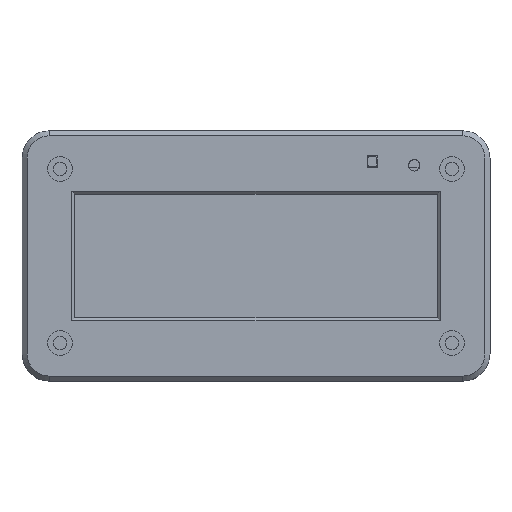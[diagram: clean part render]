
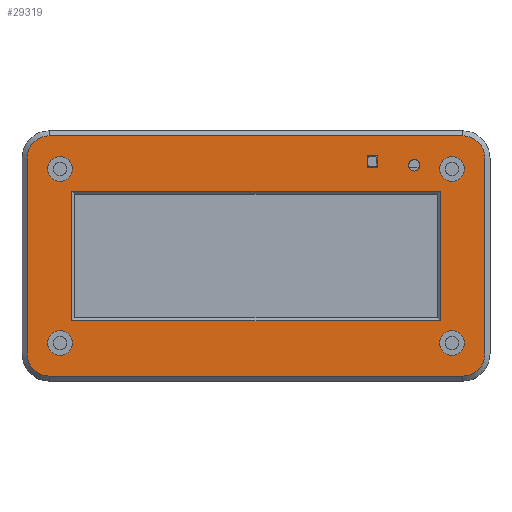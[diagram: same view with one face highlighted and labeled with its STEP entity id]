
A CAD part, top view. The second image highlights one B-rep face of the part: STEP entity #29319.
In plain terms, the highlighted planar face has unit normal (0, 0, 1).
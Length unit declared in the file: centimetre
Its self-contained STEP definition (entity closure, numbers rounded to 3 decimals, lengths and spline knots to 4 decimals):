
#203=FACE_BOUND('',#2084,.T.);
#204=FACE_BOUND('',#2085,.T.);
#205=FACE_BOUND('',#2086,.T.);
#206=FACE_BOUND('',#2087,.T.);
#207=FACE_BOUND('',#2088,.T.);
#208=FACE_BOUND('',#2089,.T.);
#209=FACE_BOUND('',#2090,.T.);
#355=CIRCLE('',#30978,0.61);
#357=CIRCLE('',#30982,0.61);
#359=CIRCLE('',#30986,0.61);
#361=CIRCLE('',#30990,0.61);
#363=CIRCLE('',#30998,0.16);
#364=CIRCLE('',#30999,0.34);
#365=CIRCLE('',#31000,0.34);
#366=CIRCLE('',#31001,0.34);
#367=CIRCLE('',#31002,0.34);
#560=FACE_OUTER_BOUND('',#2083,.T.);
#2083=EDGE_LOOP('',(#19406,#19407,#19408,#19409,#19410,#19411,#19412,#19413));
#2084=EDGE_LOOP('',(#19414));
#2085=EDGE_LOOP('',(#19415,#19416,#19417,#19418));
#2086=EDGE_LOOP('',(#19419));
#2087=EDGE_LOOP('',(#19420));
#2088=EDGE_LOOP('',(#19421));
#2089=EDGE_LOOP('',(#19422));
#2090=EDGE_LOOP('',(#19423,#19424,#19425,#19426));
#3842=LINE('',#40622,#7975);
#3846=LINE('',#40634,#7979);
#3850=LINE('',#40646,#7983);
#3853=LINE('',#40655,#7986);
#3860=LINE('',#40671,#7993);
#3861=LINE('',#40673,#7994);
#3862=LINE('',#40675,#7995);
#3863=LINE('',#40676,#7996);
#3864=LINE('',#40687,#7997);
#3865=LINE('',#40689,#7998);
#3866=LINE('',#40691,#7999);
#3867=LINE('',#40692,#8000);
#7975=VECTOR('',#32885,1.);
#7979=VECTOR('',#32897,1.);
#7983=VECTOR('',#32909,1.);
#7986=VECTOR('',#32920,1.);
#7993=VECTOR('',#32939,1.);
#7994=VECTOR('',#32940,1.);
#7995=VECTOR('',#32941,1.);
#7996=VECTOR('',#32942,1.);
#7997=VECTOR('',#32951,1.);
#7998=VECTOR('',#32952,1.);
#7999=VECTOR('',#32953,1.);
#8000=VECTOR('',#32954,1.);
#12120=VERTEX_POINT('',#40611);
#12121=VERTEX_POINT('',#40613);
#12124=VERTEX_POINT('',#40620);
#12126=VERTEX_POINT('',#40626);
#12128=VERTEX_POINT('',#40632);
#12130=VERTEX_POINT('',#40638);
#12132=VERTEX_POINT('',#40644);
#12134=VERTEX_POINT('',#40650);
#12135=VERTEX_POINT('',#40667);
#12136=VERTEX_POINT('',#40669);
#12137=VERTEX_POINT('',#40670);
#12138=VERTEX_POINT('',#40672);
#12139=VERTEX_POINT('',#40674);
#12140=VERTEX_POINT('',#40677);
#12141=VERTEX_POINT('',#40679);
#12142=VERTEX_POINT('',#40681);
#12143=VERTEX_POINT('',#40683);
#12144=VERTEX_POINT('',#40685);
#12145=VERTEX_POINT('',#40686);
#12146=VERTEX_POINT('',#40688);
#12147=VERTEX_POINT('',#40690);
#15010=EDGE_CURVE('',#12120,#12121,#355,.T.);
#15014=EDGE_CURVE('',#12124,#12120,#3842,.T.);
#15017=EDGE_CURVE('',#12126,#12124,#357,.T.);
#15020=EDGE_CURVE('',#12128,#12126,#3846,.T.);
#15023=EDGE_CURVE('',#12130,#12128,#359,.T.);
#15026=EDGE_CURVE('',#12132,#12130,#3850,.T.);
#15029=EDGE_CURVE('',#12134,#12132,#361,.T.);
#15031=EDGE_CURVE('',#12121,#12134,#3853,.T.);
#15038=EDGE_CURVE('',#12135,#12135,#363,.T.);
#15039=EDGE_CURVE('',#12136,#12137,#3860,.T.);
#15040=EDGE_CURVE('',#12137,#12138,#3861,.T.);
#15041=EDGE_CURVE('',#12138,#12139,#3862,.T.);
#15042=EDGE_CURVE('',#12139,#12136,#3863,.T.);
#15043=EDGE_CURVE('',#12140,#12140,#364,.T.);
#15044=EDGE_CURVE('',#12141,#12141,#365,.T.);
#15045=EDGE_CURVE('',#12142,#12142,#366,.T.);
#15046=EDGE_CURVE('',#12143,#12143,#367,.T.);
#15047=EDGE_CURVE('',#12144,#12145,#3864,.T.);
#15048=EDGE_CURVE('',#12146,#12144,#3865,.T.);
#15049=EDGE_CURVE('',#12147,#12146,#3866,.T.);
#15050=EDGE_CURVE('',#12145,#12147,#3867,.T.);
#19406=ORIENTED_EDGE('',*,*,#15010,.F.);
#19407=ORIENTED_EDGE('',*,*,#15014,.F.);
#19408=ORIENTED_EDGE('',*,*,#15017,.F.);
#19409=ORIENTED_EDGE('',*,*,#15020,.F.);
#19410=ORIENTED_EDGE('',*,*,#15023,.F.);
#19411=ORIENTED_EDGE('',*,*,#15026,.F.);
#19412=ORIENTED_EDGE('',*,*,#15029,.F.);
#19413=ORIENTED_EDGE('',*,*,#15031,.F.);
#19414=ORIENTED_EDGE('',*,*,#15038,.T.);
#19415=ORIENTED_EDGE('',*,*,#15039,.T.);
#19416=ORIENTED_EDGE('',*,*,#15040,.T.);
#19417=ORIENTED_EDGE('',*,*,#15041,.T.);
#19418=ORIENTED_EDGE('',*,*,#15042,.T.);
#19419=ORIENTED_EDGE('',*,*,#15043,.T.);
#19420=ORIENTED_EDGE('',*,*,#15044,.T.);
#19421=ORIENTED_EDGE('',*,*,#15045,.T.);
#19422=ORIENTED_EDGE('',*,*,#15046,.T.);
#19423=ORIENTED_EDGE('',*,*,#15047,.F.);
#19424=ORIENTED_EDGE('',*,*,#15048,.F.);
#19425=ORIENTED_EDGE('',*,*,#15049,.F.);
#19426=ORIENTED_EDGE('',*,*,#15050,.F.);
#27894=PLANE('',#30997);
#29319=ADVANCED_FACE('',(#560,#203,#204,#205,#206,#207,#208,#209),#27894,
 .T.);
#30978=AXIS2_PLACEMENT_3D('',#40614,#32877,#32878);
#30982=AXIS2_PLACEMENT_3D('',#40628,#32890,#32891);
#30986=AXIS2_PLACEMENT_3D('',#40640,#32902,#32903);
#30990=AXIS2_PLACEMENT_3D('',#40652,#32914,#32915);
#30997=AXIS2_PLACEMENT_3D('',#40666,#32935,#32936);
#30998=AXIS2_PLACEMENT_3D('',#40668,#32937,#32938);
#30999=AXIS2_PLACEMENT_3D('',#40678,#32943,#32944);
#31000=AXIS2_PLACEMENT_3D('',#40680,#32945,#32946);
#31001=AXIS2_PLACEMENT_3D('',#40682,#32947,#32948);
#31002=AXIS2_PLACEMENT_3D('',#40684,#32949,#32950);
#32877=DIRECTION('center_axis',(0.,0.,-1.));
#32878=DIRECTION('ref_axis',(-1.,0.,0.));
#32885=DIRECTION('',(-1.,0.,0.));
#32890=DIRECTION('center_axis',(0.,0.,-1.));
#32891=DIRECTION('ref_axis',(0.,-1.,0.));
#32897=DIRECTION('',(0.,-1.,0.));
#32902=DIRECTION('center_axis',(0.,0.,-1.));
#32903=DIRECTION('ref_axis',(1.,0.,0.));
#32909=DIRECTION('',(1.,0.,0.));
#32914=DIRECTION('center_axis',(0.,0.,-1.));
#32915=DIRECTION('ref_axis',(0.,1.,0.));
#32920=DIRECTION('',(0.,1.,0.));
#32935=DIRECTION('center_axis',(0.,0.,1.));
#32936=DIRECTION('ref_axis',(1.,0.,0.));
#32937=DIRECTION('center_axis',(0.,0.,-1.));
#32938=DIRECTION('ref_axis',(1.,0.,0.));
#32939=DIRECTION('',(-1.,0.,0.));
#32940=DIRECTION('',(0.,1.,0.));
#32941=DIRECTION('',(1.,0.,0.));
#32942=DIRECTION('',(0.,-1.,0.));
#32943=DIRECTION('center_axis',(0.,0.,-1.));
#32944=DIRECTION('ref_axis',(1.,0.,0.));
#32945=DIRECTION('center_axis',(0.,0.,-1.));
#32946=DIRECTION('ref_axis',(1.,0.,0.));
#32947=DIRECTION('center_axis',(0.,0.,-1.));
#32948=DIRECTION('ref_axis',(1.,0.,0.));
#32949=DIRECTION('center_axis',(0.,0.,-1.));
#32950=DIRECTION('ref_axis',(1.,0.,0.));
#32951=DIRECTION('',(1.,0.,0.));
#32952=DIRECTION('',(0.,-1.,0.));
#32953=DIRECTION('',(-1.,0.,0.));
#32954=DIRECTION('',(0.,1.,0.));
#40611=CARTESIAN_POINT('',(0.3,-0.31,0.));
#40613=CARTESIAN_POINT('',(-0.31,0.3,0.));
#40614=CARTESIAN_POINT('Origin',(0.3,0.3,0.));
#40620=CARTESIAN_POINT('',(11.7,-0.31,0.));
#40622=CARTESIAN_POINT('',(8.85,-0.31,0.));
#40626=CARTESIAN_POINT('',(12.31,0.3,0.));
#40628=CARTESIAN_POINT('Origin',(11.7,0.3,0.));
#40632=CARTESIAN_POINT('',(12.31,5.7,0.));
#40634=CARTESIAN_POINT('',(12.31,4.35,0.));
#40638=CARTESIAN_POINT('',(11.7,6.31,0.));
#40640=CARTESIAN_POINT('Origin',(11.7,5.7,0.));
#40644=CARTESIAN_POINT('',(0.3,6.31,0.));
#40646=CARTESIAN_POINT('',(3.15,6.31,0.));
#40650=CARTESIAN_POINT('',(-0.31,5.7,0.));
#40652=CARTESIAN_POINT('Origin',(0.3,5.7,0.));
#40655=CARTESIAN_POINT('',(-0.31,1.65,0.));
#40666=CARTESIAN_POINT('Origin',(6.,3.,0.));
#40667=CARTESIAN_POINT('',(10.2005,5.5006,0.));
#40668=CARTESIAN_POINT('Origin',(10.3605,5.5006,0.));
#40669=CARTESIAN_POINT('',(9.3415,5.44,0.));
#40670=CARTESIAN_POINT('',(9.0615,5.44,0.));
#40671=CARTESIAN_POINT('',(7.6708,5.44,0.));
#40672=CARTESIAN_POINT('',(9.0615,5.76,0.));
#40673=CARTESIAN_POINT('',(9.0615,4.22,0.));
#40674=CARTESIAN_POINT('',(9.3415,5.76,0.));
#40675=CARTESIAN_POINT('',(7.5308,5.76,0.));
#40676=CARTESIAN_POINT('',(9.3415,4.38,0.));
#40677=CARTESIAN_POINT('',(11.06,5.4,0.));
#40678=CARTESIAN_POINT('Origin',(11.4,5.4,0.));
#40679=CARTESIAN_POINT('',(0.26,5.4,0.));
#40680=CARTESIAN_POINT('Origin',(0.6,5.4,0.));
#40681=CARTESIAN_POINT('',(11.06,0.6,0.));
#40682=CARTESIAN_POINT('Origin',(11.4,0.6,0.));
#40683=CARTESIAN_POINT('',(0.26,0.6,0.));
#40684=CARTESIAN_POINT('Origin',(0.6,0.6,0.));
#40685=CARTESIAN_POINT('',(0.92,1.22,0.));
#40686=CARTESIAN_POINT('',(11.08,1.22,0.));
#40687=CARTESIAN_POINT('',(8.5,1.22,0.));
#40688=CARTESIAN_POINT('',(0.92,4.78,0.));
#40689=CARTESIAN_POINT('',(0.92,2.15,0.));
#40690=CARTESIAN_POINT('',(11.08,4.78,0.));
#40691=CARTESIAN_POINT('',(3.5,4.78,0.));
#40692=CARTESIAN_POINT('',(11.08,3.85,0.));
